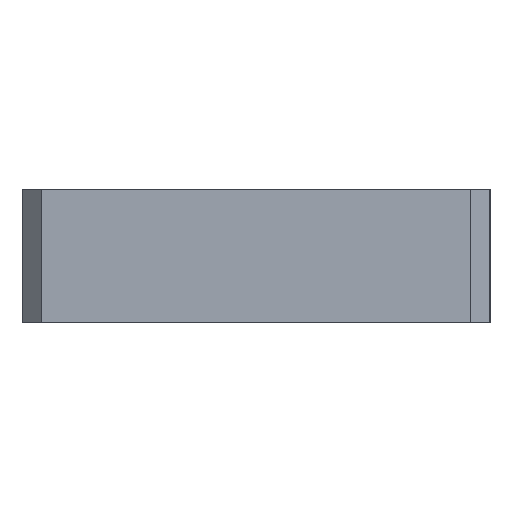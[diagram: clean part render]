
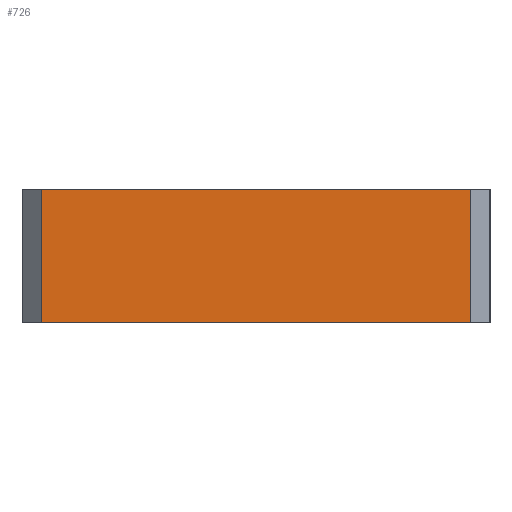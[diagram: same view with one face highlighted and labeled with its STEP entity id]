
A CAD part, left-side view. The second image highlights one B-rep face of the part: STEP entity #726.
In plain terms, the highlighted planar face has unit normal (-1, 0, 0).
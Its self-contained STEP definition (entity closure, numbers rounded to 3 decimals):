
#89 = ORIENTED_EDGE ( 'NONE', *, *, #983, .F. ) ;
#164 = VECTOR ( 'NONE', #403, 1000. ) ;
#174 = ORIENTED_EDGE ( 'NONE', *, *, #230, .T. ) ;
#202 = ORIENTED_EDGE ( 'NONE', *, *, #359, .F. ) ;
#230 = EDGE_CURVE ( 'NONE', #958, #407, #939, .T. ) ;
#317 = VERTEX_POINT ( 'NONE', #762 ) ;
#345 = ORIENTED_EDGE ( 'NONE', *, *, #454, .T. ) ;
#347 = VECTOR ( 'NONE', #723, 1000. ) ;
#359 = EDGE_CURVE ( 'NONE', #814, #317, #1159, .T. ) ;
#366 = DIRECTION ( 'NONE',  ( 0., 0., -1. ) ) ;
#402 = EDGE_LOOP ( 'NONE', ( #345, #202, #89, #174 ) ) ;
#403 = DIRECTION ( 'NONE',  ( 0., -1., 0. ) ) ;
#407 = VERTEX_POINT ( 'NONE', #903 ) ;
#454 = EDGE_CURVE ( 'NONE', #407, #317, #661, .T. ) ;
#487 = DIRECTION ( 'NONE',  ( 1., 0., 0. ) ) ;
#495 = CARTESIAN_POINT ( 'NONE',  ( -21.7, -18.4, 7. ) ) ;
#529 = CARTESIAN_POINT ( 'NONE',  ( -21.7, -18.4, 0. ) ) ;
#533 = FACE_OUTER_BOUND ( 'NONE', #402, .T. ) ;
#560 = VECTOR ( 'NONE', #928, 1000. ) ;
#619 = CARTESIAN_POINT ( 'NONE',  ( -21.7, -18.4, 7. ) ) ;
#651 = PLANE ( 'NONE',  #748 ) ;
#661 = LINE ( 'NONE', #529, #164 ) ;
#723 = DIRECTION ( 'NONE',  ( 0., 0., -1. ) ) ;
#726 = ADVANCED_FACE ( 'NONE', ( #533 ), #651, .F. ) ;
#748 = AXIS2_PLACEMENT_3D ( 'NONE', #619, #487, #366 ) ;
#762 = CARTESIAN_POINT ( 'NONE',  ( -21.7, -18.4, 0. ) ) ;
#782 = DIRECTION ( 'NONE',  ( 0., -1., 0. ) ) ;
#814 = VERTEX_POINT ( 'NONE', #495 ) ;
#829 = CARTESIAN_POINT ( 'NONE',  ( -21.7, 4.2, 7. ) ) ;
#893 = CARTESIAN_POINT ( 'NONE',  ( -21.7, -18.4, 7. ) ) ;
#903 = CARTESIAN_POINT ( 'NONE',  ( -21.7, 4.2, 0. ) ) ;
#928 = DIRECTION ( 'NONE',  ( 0., 0., -1. ) ) ;
#939 = LINE ( 'NONE', #829, #347 ) ;
#958 = VERTEX_POINT ( 'NONE', #1148 ) ;
#983 = EDGE_CURVE ( 'NONE', #958, #814, #1010, .T. ) ;
#1010 = LINE ( 'NONE', #893, #1178 ) ;
#1045 = CARTESIAN_POINT ( 'NONE',  ( -21.7, -18.4, 7. ) ) ;
#1148 = CARTESIAN_POINT ( 'NONE',  ( -21.7, 4.2, 7. ) ) ;
#1159 = LINE ( 'NONE', #1045, #560 ) ;
#1178 = VECTOR ( 'NONE', #782, 1000. ) ;
